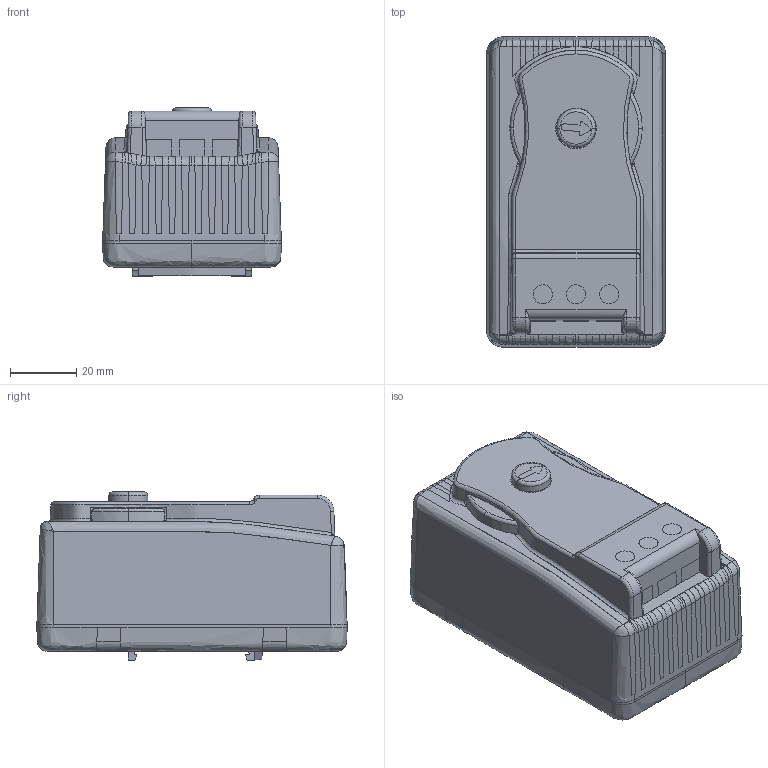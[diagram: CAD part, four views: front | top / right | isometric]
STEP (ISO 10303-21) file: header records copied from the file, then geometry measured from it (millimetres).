
FILE_DESCRIPTION(/* description */ (''),/* implementation_level */ '2;1');
FILE_NAME(/* name */ 'IGR35F~1',/* time_stamp */ '2019-07-23T14:14:18+02:00',/* author */ (''),/* organization */ (''),/* preprocessor_version */ 'ST-DEVELOPER v14',/* originating_system */ '',/* authorisation */ '');
FILE_SCHEMA (('CONFIG_CONTROL_DESIGN'));
Length unit declared in the file: millimetre
Products named in the file (1): Document
Bounding box: 53.83 x 93.48 x 50.69 mm (x, y, z)
Surface area: 21713.6 mm2 (no closed solid volume)
Topology: 0 solids, 2 shells, 257 faces, 791 edges, 481 vertices
Faces by surface type: bspline 183, plane 74
Entity records: 29138 total; most frequent: CARTESIAN_POINT 24653, ORIENTED_EDGE 1431, EDGE_CURVE 787, B_SPLINE_CURVE_WITH_KNOTS 590, VERTEX_POINT 482, EDGE_LOOP 269, ADVANCED_FACE 257, FACE_OUTER_BOUND 257
